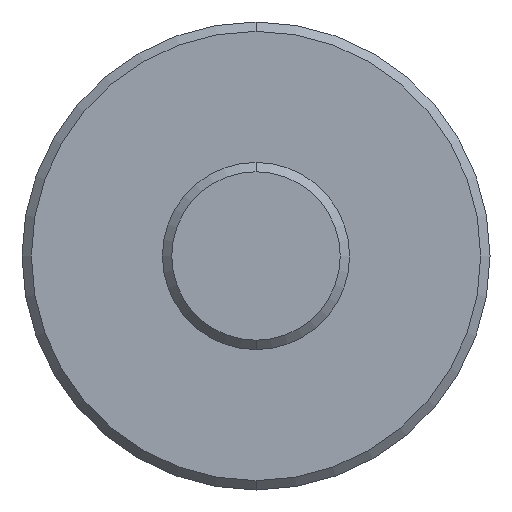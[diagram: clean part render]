
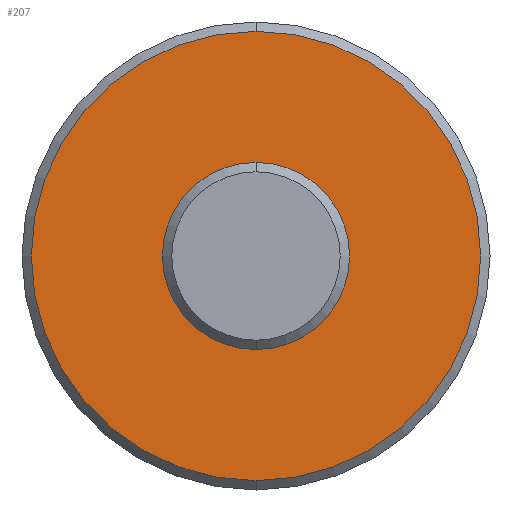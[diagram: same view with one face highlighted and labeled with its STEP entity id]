
A CAD part, front view. The second image highlights one B-rep face of the part: STEP entity #207.
In plain terms, the highlighted planar face has unit normal (0, -1, 0).
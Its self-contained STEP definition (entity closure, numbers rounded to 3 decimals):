
#3 = ORIENTED_EDGE ( 'NONE', *, *, #476, .T. ) ;
#5 = CIRCLE ( 'NONE', #563, 2.5 ) ;
#43 = DIRECTION ( 'NONE',  ( 0., 0., -1. ) ) ;
#61 = ORIENTED_EDGE ( 'NONE', *, *, #113, .F. ) ;
#70 = VERTEX_POINT ( 'NONE', #783 ) ;
#113 = EDGE_CURVE ( 'NONE', #751, #251, #5, .T. ) ;
#156 = DIRECTION ( 'NONE',  ( 0., 0., 1. ) ) ;
#162 = CARTESIAN_POINT ( 'NONE',  ( 0., 0., 0. ) ) ;
#168 = FACE_OUTER_BOUND ( 'NONE', #785, .T. ) ;
#170 = CIRCLE ( 'NONE', #376, 7.2 ) ;
#174 = ORIENTED_EDGE ( 'NONE', *, *, #760, .T. ) ;
#207 = ADVANCED_FACE ( 'NONE', ( #168, #663 ), #604, .F. ) ;
#213 = CARTESIAN_POINT ( 'NONE',  ( 0., 0., 2.5 ) ) ;
#242 = CIRCLE ( 'NONE', #747, 7.2 ) ;
#244 = DIRECTION ( 'NONE',  ( 0., 0., -1. ) ) ;
#251 = VERTEX_POINT ( 'NONE', #416 ) ;
#277 = EDGE_CURVE ( 'NONE', #251, #751, #406, .T. ) ;
#285 = CARTESIAN_POINT ( 'NONE',  ( 0., 0., 0. ) ) ;
#297 = CARTESIAN_POINT ( 'NONE',  ( 0., 0., 0. ) ) ;
#318 = DIRECTION ( 'NONE',  ( 0., 0., 1. ) ) ;
#357 = AXIS2_PLACEMENT_3D ( 'NONE', #285, #803, #795 ) ;
#376 = AXIS2_PLACEMENT_3D ( 'NONE', #712, #378, #318 ) ;
#378 = DIRECTION ( 'NONE',  ( 0., -1., 0. ) ) ;
#404 = EDGE_LOOP ( 'NONE', ( #61, #448 ) ) ;
#406 = CIRCLE ( 'NONE', #675, 2.5 ) ;
#416 = CARTESIAN_POINT ( 'NONE',  ( 0., 0., -2.5 ) ) ;
#448 = ORIENTED_EDGE ( 'NONE', *, *, #277, .F. ) ;
#472 = DIRECTION ( 'NONE',  ( 0., -1., 0. ) ) ;
#473 = DIRECTION ( 'NONE',  ( 0., -1., 0. ) ) ;
#476 = EDGE_CURVE ( 'NONE', #488, #70, #242, .T. ) ;
#488 = VERTEX_POINT ( 'NONE', #606 ) ;
#557 = DIRECTION ( 'NONE',  ( 0., -1., 0. ) ) ;
#563 = AXIS2_PLACEMENT_3D ( 'NONE', #615, #472, #43 ) ;
#604 = PLANE ( 'NONE',  #357 ) ;
#606 = CARTESIAN_POINT ( 'NONE',  ( 0., 0., 7.2 ) ) ;
#615 = CARTESIAN_POINT ( 'NONE',  ( 0., 0., 0. ) ) ;
#663 = FACE_BOUND ( 'NONE', #404, .T. ) ;
#675 = AXIS2_PLACEMENT_3D ( 'NONE', #297, #557, #244 ) ;
#712 = CARTESIAN_POINT ( 'NONE',  ( 0., 0., 0. ) ) ;
#747 = AXIS2_PLACEMENT_3D ( 'NONE', #162, #473, #156 ) ;
#751 = VERTEX_POINT ( 'NONE', #213 ) ;
#760 = EDGE_CURVE ( 'NONE', #70, #488, #170, .T. ) ;
#783 = CARTESIAN_POINT ( 'NONE',  ( 0., 0., -7.2 ) ) ;
#785 = EDGE_LOOP ( 'NONE', ( #3, #174 ) ) ;
#795 = DIRECTION ( 'NONE',  ( 0., 0., 1. ) ) ;
#803 = DIRECTION ( 'NONE',  ( 0., 1., 0. ) ) ;
